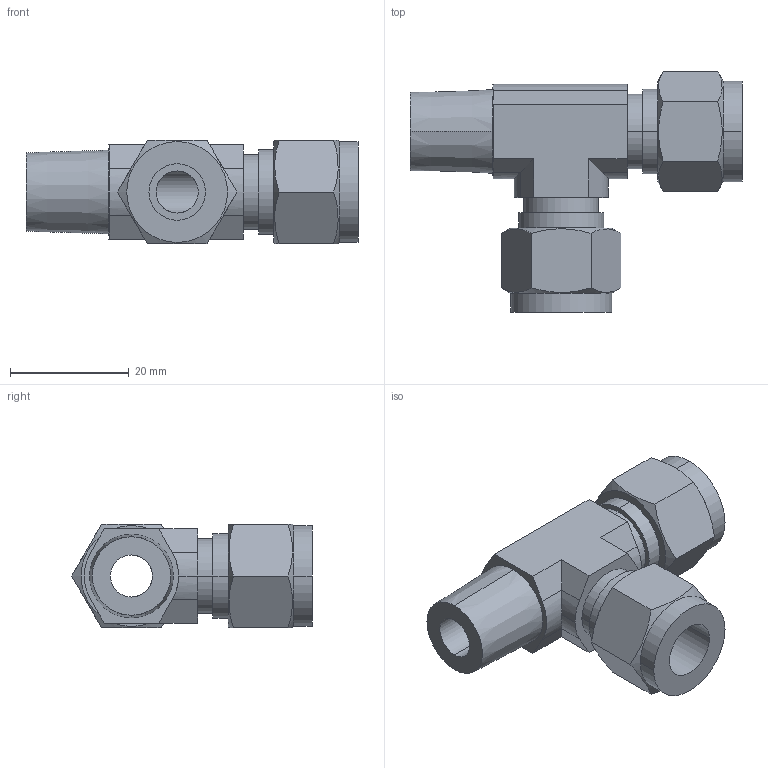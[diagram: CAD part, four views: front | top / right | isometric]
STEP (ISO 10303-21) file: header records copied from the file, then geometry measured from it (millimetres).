
FILE_DESCRIPTION (( 'STEP AP203' ), '1' );
FILE_NAME ('DTK 06-04 SS.STEP', '2009-09-08T10:03:15', ( ' ' ), ( '' ), 'SwSTEP 2.0', 'SolidWorks 2008', '' );
FILE_SCHEMA (( 'CONFIG_CONTROL_DESIGN' ));
Length unit declared in the file: millimetre
Products named in the file (1): DTK 06-04 SS
Bounding box: 56 x 40.58 x 17.46 mm (x, y, z)
Volume: 12076.1 mm3; surface area: 7036.2 mm2
Topology: 1 solids, 1 shells, 73 faces, 181 edges, 118 vertices
Faces by surface type: plane 36, cylinder 27, cone 10
Entity records: 2459 total; most frequent: CARTESIAN_POINT 666, ORIENTED_EDGE 362, DIRECTION 345, EDGE_CURVE 181, AXIS2_PLACEMENT_3D 129, VERTEX_POINT 118, VECTOR 87, LINE 87
